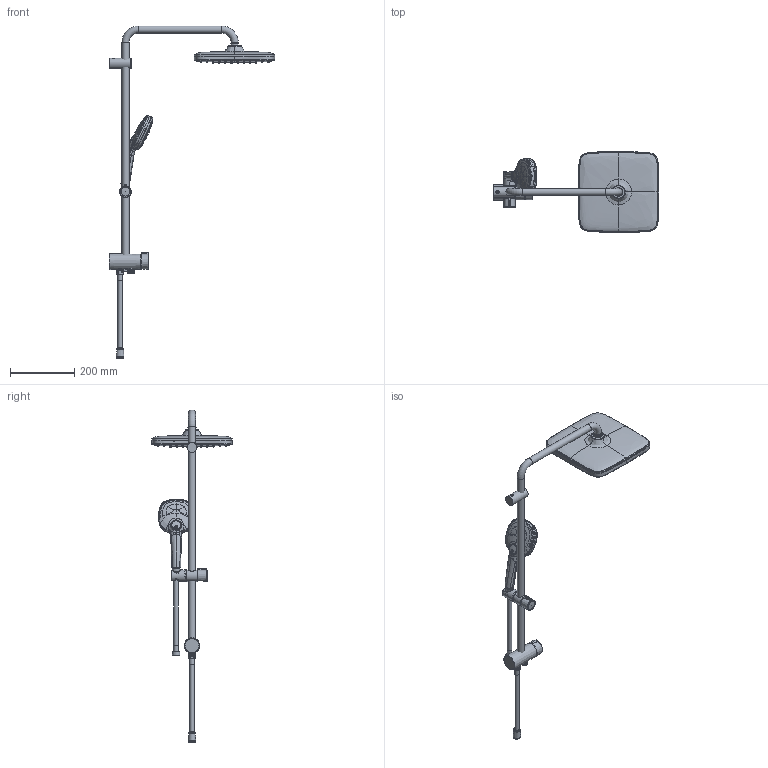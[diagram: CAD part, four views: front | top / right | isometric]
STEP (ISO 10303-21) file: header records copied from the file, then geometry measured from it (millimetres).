
FILE_DESCRIPTION(/* description */ ('Unknown'),/* implementation_level */ '2;1');
FILE_NAME(/* name */ '26698001',/* time_stamp */ '2023-04-25T23:02:40+02:00',/* author */ ('Unknown'),/* organization */ ('GROHE AG'),/* preprocessor_version */ 'ST-DEVELOPER v16.7',/* originating_system */ 'DEX',/* authorisation */ $);
FILE_SCHEMA (('AUTOMOTIVE_DESIGN {1 0 10303 214 3 1 1}'));
Length unit declared in the file: millimetre
Products named in the file (1): 26698001
Bounding box: 515.5 x 250.02 x 1034.36 mm (x, y, z)
Surface area: 427540.3 mm2 (no closed solid volume)
Topology: 0 solids, 528 shells, 1479 faces, 5449 edges, 4352 vertices
Faces by surface type: bspline 688, cylinder 346, plane 278, torus 125, cone 27, sphere 15
Full cylindrical faces by diameter (mm): 2.187 x36, 2.8 x72, 3.797 x136, 4.1 x7, 10 x1, 14.262 x2, 15 x4, 19.9 x2, 20.96 x1, 22 x5, 22.6 x2, 23 x2, 31.3 x1, 33.4 x2, 36 x2
Entity records: 112578 total; most frequent: CARTESIAN_POINT 72309, ORIENTED_EDGE 5909, EDGE_CURVE 4520, VERTEX_POINT 3962, DIRECTION 3872, B_SPLINE_CURVE_WITH_KNOTS 3251, EDGE_LOOP 2752, FACE_BOUND 2752
